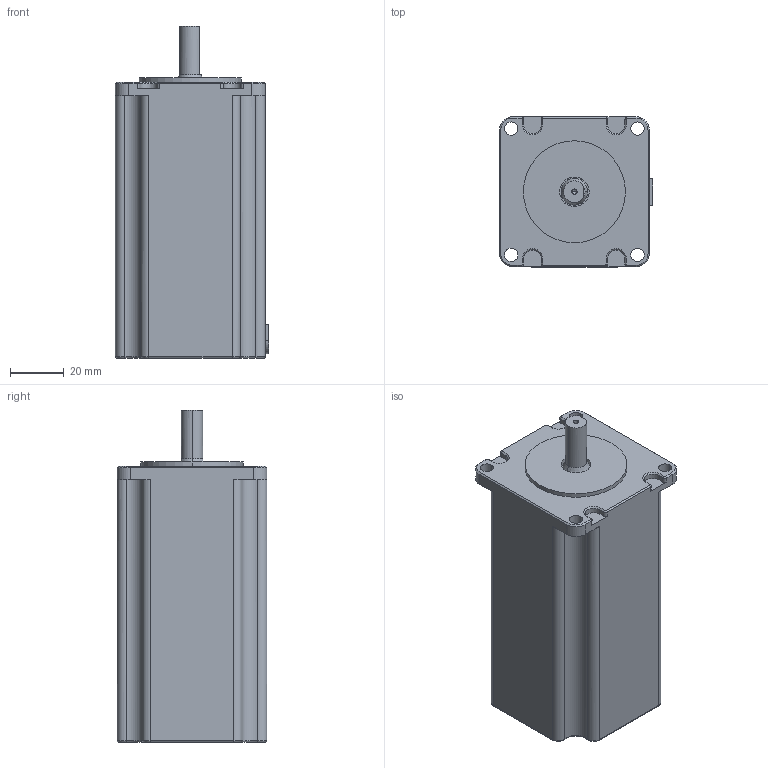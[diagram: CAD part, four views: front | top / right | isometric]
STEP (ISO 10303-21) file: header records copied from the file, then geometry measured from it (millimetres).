
FILE_DESCRIPTION((''),'2;1');
FILE_NAME('QL3610A','2022-03-24T11:40:52',('qingl'),(''),'CREO PARAMETRIC BY PTC INC, 2019224','CREO PARAMETRIC BY PTC INC, 2019224','');
FILE_SCHEMA(('CONFIG_CONTROL_DESIGN'));
Length unit declared in the file: millimetre
Products named in the file (1): QL3610A
Bounding box: 57.2 x 56 x 124 mm (x, y, z)
Volume: 289844.8 mm3; surface area: 28916.4 mm2
Topology: 1 solids, 1 shells, 260 faces, 698 edges, 449 vertices
Faces by surface type: cylinder 163, plane 57, cone 20, torus 12, bspline 8
Entity records: 11704 total; most frequent: CARTESIAN_POINT 5435, ORIENTED_EDGE 1392, DIRECTION 1176, EDGE_CURVE 696, VERTEX_POINT 449, AXIS2_PLACEMENT_3D 440, VECTOR 296, LINE 296
